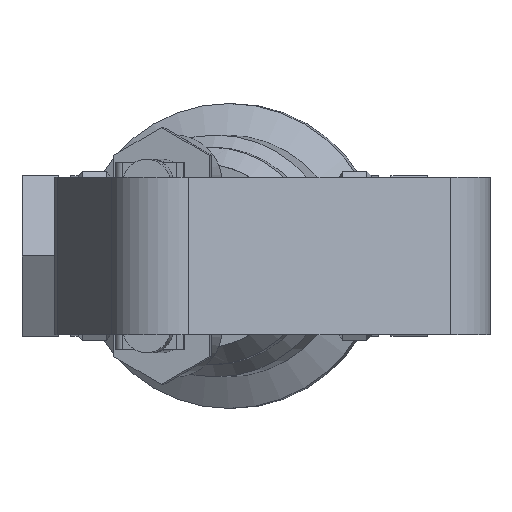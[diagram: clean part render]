
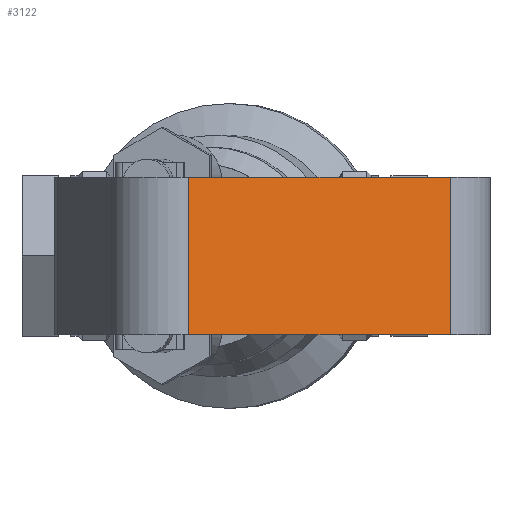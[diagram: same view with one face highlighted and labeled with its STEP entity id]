
A CAD part, front view. The second image highlights one B-rep face of the part: STEP entity #3122.
In plain terms, the highlighted planar face has unit normal (0.342, -0.94, 0).
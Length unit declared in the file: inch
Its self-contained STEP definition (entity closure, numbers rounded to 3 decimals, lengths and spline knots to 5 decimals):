
#110=PLANE('',#3452);
#248=FACE_OUTER_BOUND('',#431,.T.);
#431=EDGE_LOOP('',(#2190,#2191,#2192,#2193));
#621=LINE('',#5144,#868);
#628=LINE('',#5179,#875);
#629=LINE('',#5182,#876);
#630=LINE('',#5183,#877);
#868=VECTOR('',#3916,0.3937);
#875=VECTOR('',#3955,0.3937);
#876=VECTOR('',#3958,0.3937);
#877=VECTOR('',#3959,0.3937);
#1334=VERTEX_POINT('',#5141);
#1335=VERTEX_POINT('',#5143);
#1347=VERTEX_POINT('',#5177);
#1348=VERTEX_POINT('',#5181);
#1657=EDGE_CURVE('',#1334,#1335,#621,.T.);
#1674=EDGE_CURVE('',#1347,#1334,#628,.T.);
#1675=EDGE_CURVE('',#1348,#1347,#629,.T.);
#1676=EDGE_CURVE('',#1348,#1335,#630,.T.);
#2190=ORIENTED_EDGE('',*,*,#1674,.F.);
#2191=ORIENTED_EDGE('',*,*,#1675,.F.);
#2192=ORIENTED_EDGE('',*,*,#1676,.T.);
#2193=ORIENTED_EDGE('',*,*,#1657,.F.);
#3122=ADVANCED_FACE('',(#248),#110,.T.);
#3452=AXIS2_PLACEMENT_3D('',#5180,#3956,#3957);
#3916=DIRECTION('',(-0.94,-0.342,0.));
#3955=DIRECTION('',(0.,0.,-1.));
#3956=DIRECTION('center_axis',(0.342,-0.94,0.));
#3957=DIRECTION('ref_axis',(0.94,0.342,0.));
#3958=DIRECTION('',(0.94,0.342,0.));
#3959=DIRECTION('',(0.,0.,-1.));
#5141=CARTESIAN_POINT('',(1.86538,-3.86272,-0.65));
#5143=CARTESIAN_POINT('',(-0.29723,-4.64985,-0.65));
#5144=CARTESIAN_POINT('',(1.86538,-3.86272,-0.65));
#5177=CARTESIAN_POINT('',(1.86538,-3.86272,0.65));
#5179=CARTESIAN_POINT('',(1.86538,-3.86272,0.));
#5180=CARTESIAN_POINT('Origin',(-0.29723,-4.64985,0.));
#5181=CARTESIAN_POINT('',(-0.29723,-4.64985,0.65));
#5182=CARTESIAN_POINT('',(1.86538,-3.86272,0.65));
#5183=CARTESIAN_POINT('',(-0.29723,-4.64985,0.));
